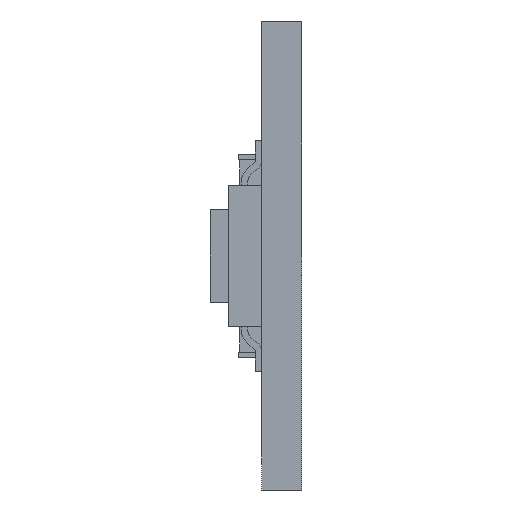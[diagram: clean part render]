
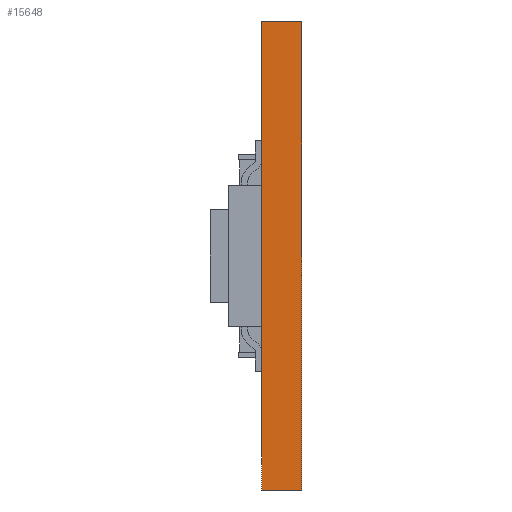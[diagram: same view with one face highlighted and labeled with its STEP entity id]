
A CAD part, left-side view. The second image highlights one B-rep face of the part: STEP entity #15648.
In plain terms, the highlighted planar face has unit normal (-1, 0, 0).
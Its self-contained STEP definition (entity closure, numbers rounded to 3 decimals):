
#357 = CARTESIAN_POINT ( 'NONE',  ( -10.5, 1.55, -9.125 ) ) ;
#1129 = LINE ( 'NONE', #5037, #3573 ) ;
#1538 = FACE_OUTER_BOUND ( 'NONE', #15266, .T. ) ;
#2727 = DIRECTION ( 'NONE',  ( 1., 0., 0. ) ) ;
#2862 = ORIENTED_EDGE ( 'NONE', *, *, #3477, .T. ) ;
#2979 = PLANE ( 'NONE',  #13427 ) ;
#2986 = CARTESIAN_POINT ( 'NONE',  ( -10.5, 1.55, -9.125 ) ) ;
#3165 = CARTESIAN_POINT ( 'NONE',  ( -10.5, 0., 9.125 ) ) ;
#3477 = EDGE_CURVE ( 'NONE', #10943, #4144, #5370, .T. ) ;
#3573 = VECTOR ( 'NONE', #7675, 1000. ) ;
#3998 = CARTESIAN_POINT ( 'NONE',  ( -10.5, 1.55, -9.125 ) ) ;
#4000 = EDGE_CURVE ( 'NONE', #7312, #16327, #9725, .T. ) ;
#4144 = VERTEX_POINT ( 'NONE', #8702 ) ;
#4532 = DIRECTION ( 'NONE',  ( 0., -1., 0. ) ) ;
#5037 = CARTESIAN_POINT ( 'NONE',  ( -10.5, 0., -9.125 ) ) ;
#5370 = LINE ( 'NONE', #2986, #7869 ) ;
#6009 = ORIENTED_EDGE ( 'NONE', *, *, #10565, .T. ) ;
#7312 = VERTEX_POINT ( 'NONE', #10244 ) ;
#7412 = VECTOR ( 'NONE', #16830, 1000. ) ;
#7675 = DIRECTION ( 'NONE',  ( 0., 0., 1. ) ) ;
#7869 = VECTOR ( 'NONE', #12172, 1000. ) ;
#8404 = VECTOR ( 'NONE', #4532, 1000. ) ;
#8702 = CARTESIAN_POINT ( 'NONE',  ( -10.5, 0., -9.125 ) ) ;
#9725 = LINE ( 'NONE', #15872, #8404 ) ;
#10235 = ORIENTED_EDGE ( 'NONE', *, *, #13693, .F. ) ;
#10244 = CARTESIAN_POINT ( 'NONE',  ( -10.5, 1.55, 9.125 ) ) ;
#10565 = EDGE_CURVE ( 'NONE', #4144, #16327, #1129, .T. ) ;
#10724 = DIRECTION ( 'NONE',  ( 0., 0., -1. ) ) ;
#10943 = VERTEX_POINT ( 'NONE', #3998 ) ;
#11616 = CARTESIAN_POINT ( 'NONE',  ( -10.5, 1.55, -9.125 ) ) ;
#12172 = DIRECTION ( 'NONE',  ( 0., -1., 0. ) ) ;
#13427 = AXIS2_PLACEMENT_3D ( 'NONE', #357, #2727, #10724 ) ;
#13693 = EDGE_CURVE ( 'NONE', #10943, #7312, #15724, .T. ) ;
#15232 = ORIENTED_EDGE ( 'NONE', *, *, #4000, .F. ) ;
#15266 = EDGE_LOOP ( 'NONE', ( #6009, #15232, #10235, #2862 ) ) ;
#15648 = ADVANCED_FACE ( 'NONE', ( #1538 ), #2979, .F. ) ;
#15724 = LINE ( 'NONE', #11616, #7412 ) ;
#15872 = CARTESIAN_POINT ( 'NONE',  ( -10.5, 1.55, 9.125 ) ) ;
#16327 = VERTEX_POINT ( 'NONE', #3165 ) ;
#16830 = DIRECTION ( 'NONE',  ( 0., 0., 1. ) ) ;
